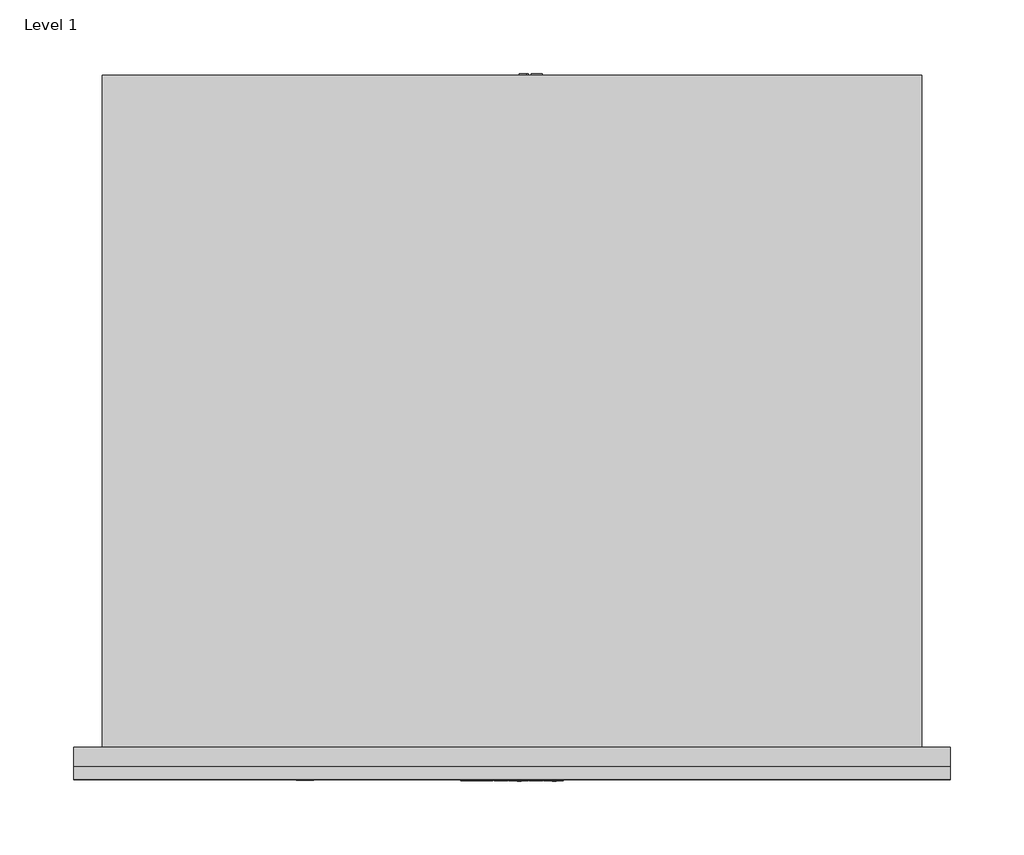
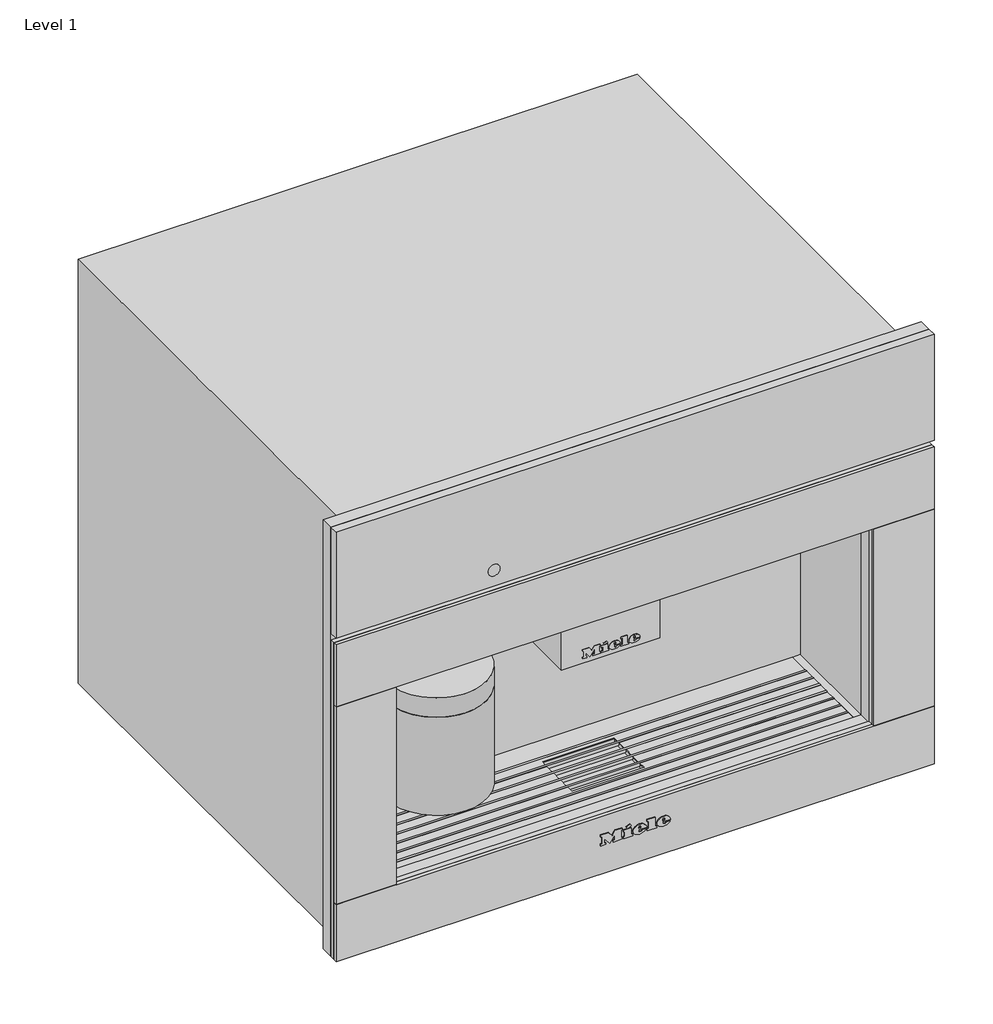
# One storey: 1 proxy.
"""IFC4 building model written with IfcOpenShell, lengths in millimetres."""

from ifc_helpers import new_model, si_unit, origin, place, context, project, spatial, transform, mapped, element, save
from components import specialty_equipment_a78401e0

model = new_model("IFC4")

# Units and contexts
model_context = context("Model", 3, world=origin())
ifc_project = project(units=[si_unit("LENGTHUNIT", "METRE", prefix="MILLI")], contexts=[model_context])

# Site, building, storey
site = spatial("IfcSite", under=ifc_project)
building = spatial("IfcBuilding", under=site)
storey = spatial("IfcBuildingStorey", under=building, Name="Level 1", Elevation=0.0)

# Proxy
placement = place(None, origin())
specialty_equipment_shape = specialty_equipment_a78401e0(model_context)
element("IfcBuildingElementProxy", 1, Name="11166390_I_CVA7440_OBSW : 29744020_I_11166390_CVA7440_OBSW", ObjectType="11166390_I_CVA7440_OBSW : 29744020_I_11166390_CVA7440_OBSW", at=placement, inside=storey, context=model_context, shape_type="MappedRepresentation", body=[
    mapped(specialty_equipment_shape, transform((0.0, 0.0, 0.0), x_axis=(1.0, 0.0, 0.0), y_axis=(0.0, 1.0, 0.0), z_axis=(0.0, 0.0, 1.0))),
])

save(model, "model.ifc")
